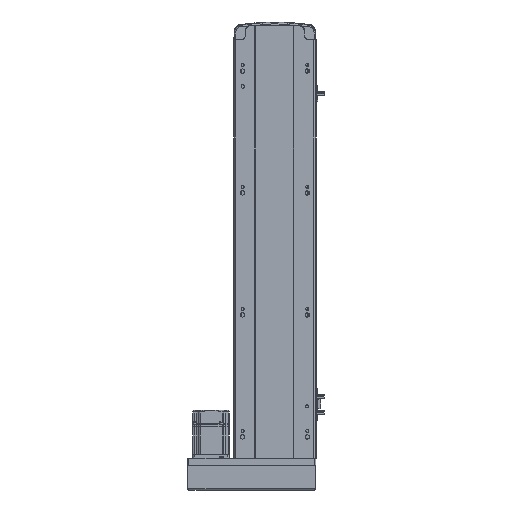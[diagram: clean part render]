
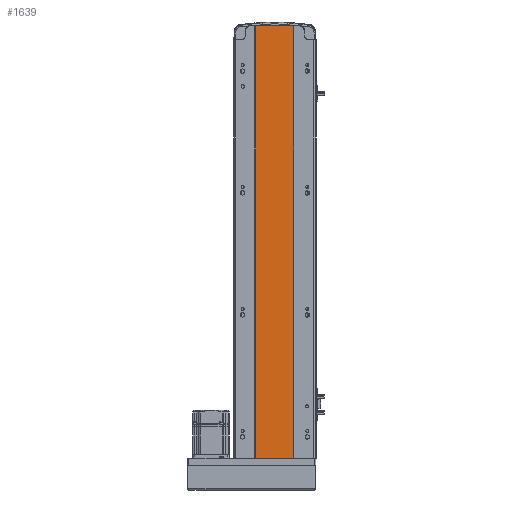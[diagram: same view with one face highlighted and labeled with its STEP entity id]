
A CAD part, front view. The second image highlights one B-rep face of the part: STEP entity #1639.
In plain terms, the highlighted planar face has unit normal (0, -1, 0).
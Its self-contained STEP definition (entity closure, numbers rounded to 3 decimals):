
#1639 = ADVANCED_FACE ( 'NONE', ( #19000 ), #52256, .F. ) ;
#2366 = CARTESIAN_POINT ( 'NONE',  ( -32., 1., 709. ) ) ;
#2698 = CARTESIAN_POINT ( 'NONE',  ( -32., 1., 0. ) ) ;
#5518 = ORIENTED_EDGE ( 'NONE', *, *, #30271, .F. ) ;
#8372 = CARTESIAN_POINT ( 'NONE',  ( -32., 1., 709. ) ) ;
#10996 = CARTESIAN_POINT ( 'NONE',  ( -32., 1., 709. ) ) ;
#11500 = ORIENTED_EDGE ( 'NONE', *, *, #45459, .T. ) ;
#11825 = LINE ( 'NONE', #2698, #31786 ) ;
#13875 = CARTESIAN_POINT ( 'NONE',  ( 30., 1., 709. ) ) ;
#16754 = VECTOR ( 'NONE', #19047, 1000. ) ;
#18338 = EDGE_CURVE ( 'NONE', #27157, #36251, #45950, .T. ) ;
#19000 = FACE_OUTER_BOUND ( 'NONE', #25329, .T. ) ;
#19047 = DIRECTION ( 'NONE',  ( 1., 0., 0. ) ) ;
#19144 = VECTOR ( 'NONE', #31627, 1000. ) ;
#21933 = DIRECTION ( 'NONE',  ( 0., 1., 0. ) ) ;
#23173 = CARTESIAN_POINT ( 'NONE',  ( -32., 1., 709. ) ) ;
#23953 = AXIS2_PLACEMENT_3D ( 'NONE', #8372, #21933, #39424 ) ;
#24706 = CARTESIAN_POINT ( 'NONE',  ( -32., 1., 0. ) ) ;
#25329 = EDGE_LOOP ( 'NONE', ( #48928, #37588, #5518, #11500 ) ) ;
#27073 = LINE ( 'NONE', #10996, #16754 ) ;
#27157 = VERTEX_POINT ( 'NONE', #13875 ) ;
#30271 = EDGE_CURVE ( 'NONE', #55035, #27157, #27073, .T. ) ;
#31627 = DIRECTION ( 'NONE',  ( 0., 0., -1. ) ) ;
#31786 = VECTOR ( 'NONE', #33315, 1000. ) ;
#33013 = DIRECTION ( 'NONE',  ( 0., 0., -1. ) ) ;
#33315 = DIRECTION ( 'NONE',  ( 1., 0., 0. ) ) ;
#36251 = VERTEX_POINT ( 'NONE', #48301 ) ;
#37588 = ORIENTED_EDGE ( 'NONE', *, *, #18338, .F. ) ;
#39424 = DIRECTION ( 'NONE',  ( -1., 0., 0. ) ) ;
#39909 = EDGE_CURVE ( 'NONE', #50473, #36251, #11825, .T. ) ;
#44081 = LINE ( 'NONE', #2366, #54401 ) ;
#44997 = CARTESIAN_POINT ( 'NONE',  ( 30., 1., 709. ) ) ;
#45459 = EDGE_CURVE ( 'NONE', #55035, #50473, #44081, .T. ) ;
#45950 = LINE ( 'NONE', #44997, #19144 ) ;
#48301 = CARTESIAN_POINT ( 'NONE',  ( 30., 1., 0. ) ) ;
#48928 = ORIENTED_EDGE ( 'NONE', *, *, #39909, .T. ) ;
#50473 = VERTEX_POINT ( 'NONE', #24706 ) ;
#52256 = PLANE ( 'NONE',  #23953 ) ;
#54401 = VECTOR ( 'NONE', #33013, 1000. ) ;
#55035 = VERTEX_POINT ( 'NONE', #23173 ) ;
